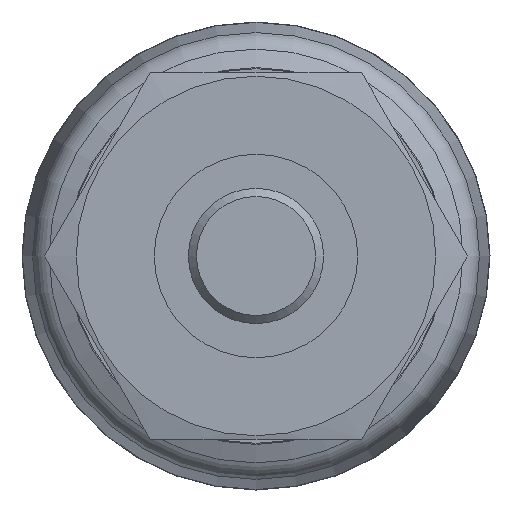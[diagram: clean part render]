
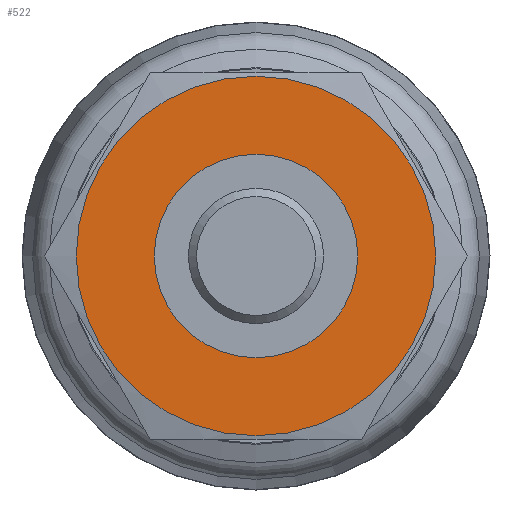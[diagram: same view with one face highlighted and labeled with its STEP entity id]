
A CAD part, left-side view. The second image highlights one B-rep face of the part: STEP entity #522.
In plain terms, the highlighted planar face has unit normal (-1, 0, 0).
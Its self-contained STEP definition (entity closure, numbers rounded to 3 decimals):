
#92=FACE_BOUND('',#201,.T.);
#132=FACE_OUTER_BOUND('',#200,.T.);
#200=EDGE_LOOP('',(#416));
#201=EDGE_LOOP('',(#417));
#237=CIRCLE('',#599,7.5);
#238=CIRCLE('',#601,13.25);
#281=VERTEX_POINT('',#907);
#282=VERTEX_POINT('',#910);
#331=EDGE_CURVE('',#281,#281,#237,.T.);
#332=EDGE_CURVE('',#282,#282,#238,.T.);
#416=ORIENTED_EDGE('',*,*,#332,.F.);
#417=ORIENTED_EDGE('',*,*,#331,.T.);
#447=PLANE('',#600);
#522=ADVANCED_FACE('',(#132,#92),#447,.T.);
#599=AXIS2_PLACEMENT_3D('',#908,#744,#745);
#600=AXIS2_PLACEMENT_3D('',#909,#746,#747);
#601=AXIS2_PLACEMENT_3D('',#911,#748,#749);
#744=DIRECTION('center_axis',(1.,0.,0.));
#745=DIRECTION('ref_axis',(0.,1.,0.));
#746=DIRECTION('center_axis',(-1.,0.,0.));
#747=DIRECTION('ref_axis',(0.,0.,1.));
#748=DIRECTION('center_axis',(1.,0.,0.));
#749=DIRECTION('ref_axis',(0.,1.,0.));
#907=CARTESIAN_POINT('',(-6.5,7.5,0.));
#908=CARTESIAN_POINT('Origin',(-6.5,0.,0.));
#909=CARTESIAN_POINT('Origin',(-6.5,10.375,0.));
#910=CARTESIAN_POINT('',(-6.5,13.25,0.));
#911=CARTESIAN_POINT('Origin',(-6.5,0.,0.));
